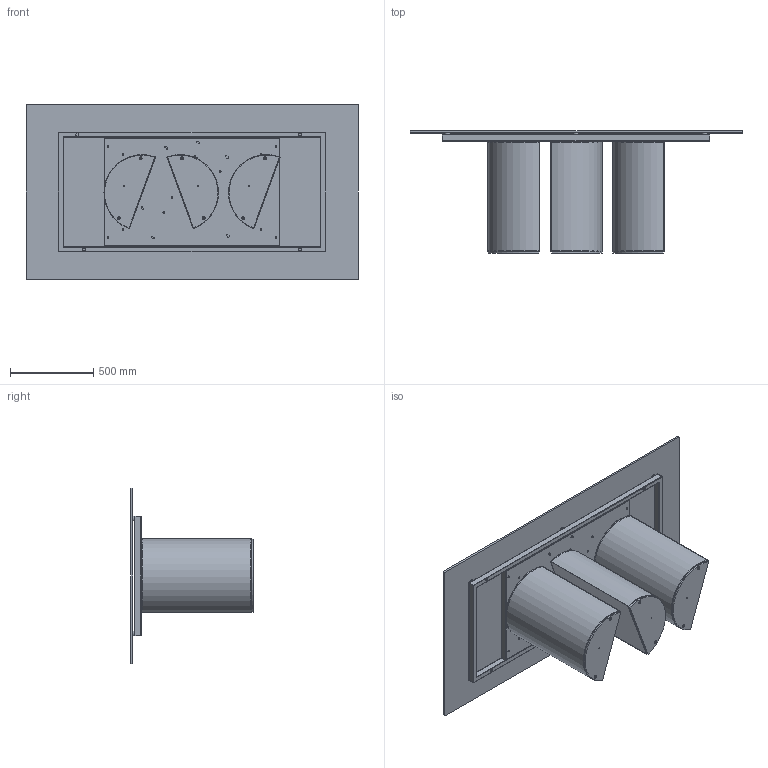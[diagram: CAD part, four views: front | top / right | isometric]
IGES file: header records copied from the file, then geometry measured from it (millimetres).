
Start section: SolidWorks IGES file using analytic representation for surfaces
Global section: file name: Y:\eforma\TECNICO\SOLIDWORKS\E-FORMA\1-TAVOLI\PLAI\02 parts\PL21G.IGS; native system: SolidWorks 2022; preprocessor: SolidWorks 2022; author: eforma.tech; date: 240807.155106; units: millimetre
Bounding box: 2000 x 736 x 1060 mm (x, y, z)
Volume: 38213603.3 mm3; surface area: 12960824.5 mm2
Topology: 48 solids, 48 shells, 1116 faces, 2498 edges, 1460 vertices
Faces by surface type: revolution 645, plane 471
